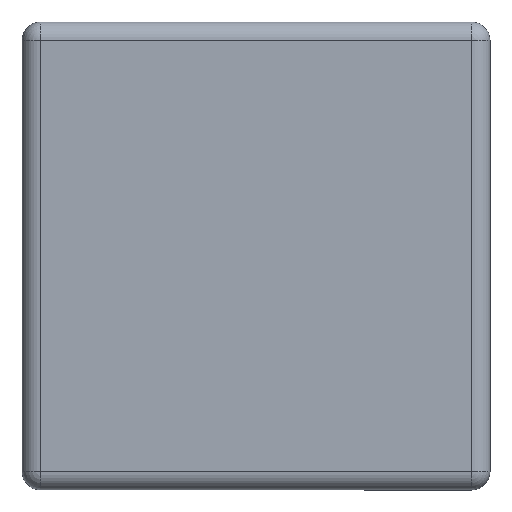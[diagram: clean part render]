
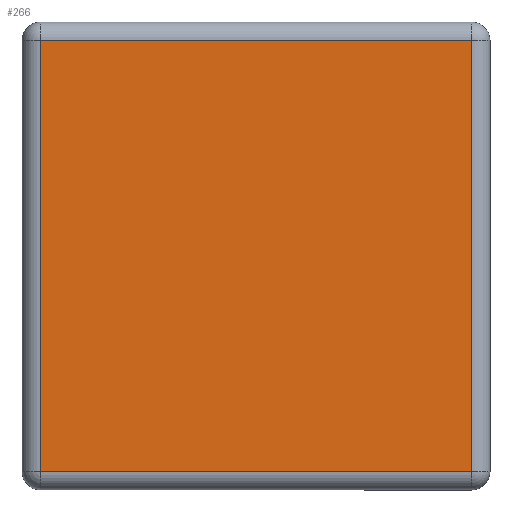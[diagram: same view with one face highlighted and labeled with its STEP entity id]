
A CAD part, front view. The second image highlights one B-rep face of the part: STEP entity #266.
In plain terms, the highlighted planar face has unit normal (0, -1, 0).
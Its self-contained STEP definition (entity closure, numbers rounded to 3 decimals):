
#264 = EDGE_CURVE ( 'NONE', #370, #359, #759, .T. ) ;
#265 = ORIENTED_EDGE ( 'NONE', *, *, #264, .T. ) ;
#266 = ADVANCED_FACE ( 'NONE', ( #755 ), #754, .F. ) ;
#281 = EDGE_CURVE ( 'NONE', #347, #345, #819, .T. ) ;
#283 = ORIENTED_EDGE ( 'NONE', *, *, #348, .T. ) ;
#284 = EDGE_CURVE ( 'NONE', #345, #370, #815, .T. ) ;
#285 = ORIENTED_EDGE ( 'NONE', *, *, #281, .T. ) ;
#302 = EDGE_LOOP ( 'NONE', ( #265, #283, #285, #346 ) ) ;
#345 = VERTEX_POINT ( 'NONE', #571 ) ;
#346 = ORIENTED_EDGE ( 'NONE', *, *, #284, .T. ) ;
#347 = VERTEX_POINT ( 'NONE', #551 ) ;
#348 = EDGE_CURVE ( 'NONE', #359, #347, #678, .T. ) ;
#359 = VERTEX_POINT ( 'NONE', #617 ) ;
#370 = VERTEX_POINT ( 'NONE', #540 ) ;
#375 = DIRECTION ( 'NONE',  ( 1., 0., 0. ) ) ;
#381 = VECTOR ( 'NONE', #375, 1000. ) ;
#540 = CARTESIAN_POINT ( 'NONE',  ( 23.4, 0., -23.4 ) ) ;
#551 = CARTESIAN_POINT ( 'NONE',  ( -23.4, 0., 23.4 ) ) ;
#571 = CARTESIAN_POINT ( 'NONE',  ( -23.4, 0., -23.4 ) ) ;
#617 = CARTESIAN_POINT ( 'NONE',  ( 23.4, 0., 23.4 ) ) ;
#675 = DIRECTION ( 'NONE',  ( -1., 0., 0. ) ) ;
#676 = VECTOR ( 'NONE', #675, 1000. ) ;
#677 = CARTESIAN_POINT ( 'NONE',  ( -25.4, 0., 23.4 ) ) ;
#678 = LINE ( 'NONE', #677, #676 ) ;
#752 = AXIS2_PLACEMENT_3D ( 'NONE', #753, #764, #763 ) ;
#753 = CARTESIAN_POINT ( 'NONE',  ( -25.4, 0., -25.4 ) ) ;
#754 = PLANE ( 'NONE',  #752 ) ;
#755 = FACE_OUTER_BOUND ( 'NONE', #302, .T. ) ;
#756 = DIRECTION ( 'NONE',  ( 0., 0., 1. ) ) ;
#757 = VECTOR ( 'NONE', #756, 1000. ) ;
#758 = CARTESIAN_POINT ( 'NONE',  ( 23.4, 0., -25.4 ) ) ;
#759 = LINE ( 'NONE', #758, #757 ) ;
#763 = DIRECTION ( 'NONE',  ( 0., 0., 1. ) ) ;
#764 = DIRECTION ( 'NONE',  ( 0., 1., 0. ) ) ;
#814 = CARTESIAN_POINT ( 'NONE',  ( -25.4, 0., -23.4 ) ) ;
#815 = LINE ( 'NONE', #814, #381 ) ;
#816 = DIRECTION ( 'NONE',  ( 0., 0., -1. ) ) ;
#817 = VECTOR ( 'NONE', #816, 1000. ) ;
#818 = CARTESIAN_POINT ( 'NONE',  ( -23.4, 0., -25.4 ) ) ;
#819 = LINE ( 'NONE', #818, #817 ) ;
